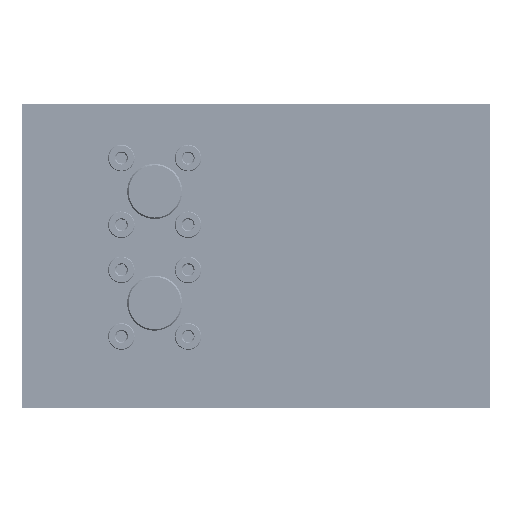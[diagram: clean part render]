
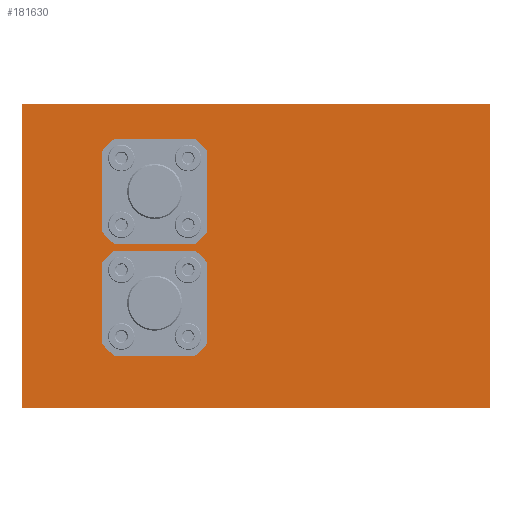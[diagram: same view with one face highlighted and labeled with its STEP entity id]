
A CAD part, left-side view. The second image highlights one B-rep face of the part: STEP entity #181630.
In plain terms, the highlighted planar face has unit normal (-1, 0, 0).
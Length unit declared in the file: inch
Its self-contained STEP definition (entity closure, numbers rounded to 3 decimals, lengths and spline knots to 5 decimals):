
#277 = VECTOR ( 'NONE', #78513, 39.37008 ) ;
#1141 = VERTEX_POINT ( 'NONE', #225869 ) ;
#8269 = FACE_BOUND ( 'NONE', #91993, .T. ) ;
#13067 = DIRECTION ( 'NONE',  ( 0., 0., 1. ) ) ;
#14617 = CARTESIAN_POINT ( 'NONE',  ( -5.51181, 2.6378, 0.8563 ) ) ;
#19227 = CIRCLE ( 'NONE', #238451, 0.18701 ) ;
#20562 = ORIENTED_EDGE ( 'NONE', *, *, #149128, .F. ) ;
#22604 = DIRECTION ( 'NONE',  ( -1., 0., 0. ) ) ;
#25913 = CARTESIAN_POINT ( 'NONE',  ( -5.51181, 2.6378, 0.8563 ) ) ;
#31103 = VECTOR ( 'NONE', #132391, 39.37008 ) ;
#32007 = CARTESIAN_POINT ( 'NONE',  ( -5.51181, 2.6378, 0.8563 ) ) ;
#32391 = CARTESIAN_POINT ( 'NONE',  ( -5.51181, 2.04724, -0.3666 ) ) ;
#32559 = VERTEX_POINT ( 'NONE', #194157 ) ;
#33224 = ORIENTED_EDGE ( 'NONE', *, *, #82172, .T. ) ;
#33620 = DIRECTION ( 'NONE',  ( 0., 0., 1. ) ) ;
#37608 = AXIS2_PLACEMENT_3D ( 'NONE', #56660, #55831, #194368 ) ;
#42775 = DIRECTION ( 'NONE',  ( 0., -1., 0. ) ) ;
#52065 = CARTESIAN_POINT ( 'NONE',  ( -5.51181, 2.04724, 0.26332 ) ) ;
#53476 = CARTESIAN_POINT ( 'NONE',  ( -5.51181, 1.88976, 0.55118 ) ) ;
#54280 = CARTESIAN_POINT ( 'NONE',  ( -5.51181, 1.88976, 0.36417 ) ) ;
#54662 = DIRECTION ( 'NONE',  ( 0., 0., -1. ) ) ;
#55139 = VECTOR ( 'NONE', #42775, 39.37008 ) ;
#55831 = DIRECTION ( 'NONE',  ( -1., 0., 0. ) ) ;
#56660 = CARTESIAN_POINT ( 'NONE',  ( -5.51181, 1.88976, 0.36417 ) ) ;
#57476 = VERTEX_POINT ( 'NONE', #96470 ) ;
#58180 = DIRECTION ( 'NONE',  ( -1., 0., 0. ) ) ;
#59134 = DIRECTION ( 'NONE',  ( 0., 0., 1. ) ) ;
#59445 = VERTEX_POINT ( 'NONE', #247343 ) ;
#65552 = EDGE_CURVE ( 'NONE', #1141, #59445, #199415, .T. ) ;
#68057 = CARTESIAN_POINT ( 'NONE',  ( -5.51181, 0., 0.8563 ) ) ;
#70393 = ORIENTED_EDGE ( 'NONE', *, *, #176235, .T. ) ;
#72454 = FACE_BOUND ( 'NONE', #117536, .T. ) ;
#73826 = VERTEX_POINT ( 'NONE', #53476 ) ;
#74752 = CIRCLE ( 'NONE', #221240, 0.18701 ) ;
#74835 = DIRECTION ( 'NONE',  ( -1., 0., 0. ) ) ;
#77020 = CARTESIAN_POINT ( 'NONE',  ( -5.51181, 1.88976, -0.26575 ) ) ;
#77610 = ORIENTED_EDGE ( 'NONE', *, *, #84788, .F. ) ;
#78513 = DIRECTION ( 'NONE',  ( 0., 0., -1. ) ) ;
#80422 = DIRECTION ( 'NONE',  ( -1., 0., 0. ) ) ;
#80688 = CARTESIAN_POINT ( 'NONE',  ( -5.51181, 2.04724, -0.3666 ) ) ;
#82172 = EDGE_CURVE ( 'NONE', #32559, #175424, #90363, .T. ) ;
#83151 = LINE ( 'NONE', #32391, #31103 ) ;
#84788 = EDGE_CURVE ( 'NONE', #238955, #197622, #83151, .T. ) ;
#86120 = AXIS2_PLACEMENT_3D ( 'NONE', #77020, #58180, #253216 ) ;
#90363 = LINE ( 'NONE', #158393, #163961 ) ;
#91993 = EDGE_LOOP ( 'NONE', ( #77610, #252376, #173084, #185242 ) ) ;
#92762 = EDGE_CURVE ( 'NONE', #207242, #175424, #247311, .T. ) ;
#95987 = CARTESIAN_POINT ( 'NONE',  ( -5.51181, 1.88976, -0.26575 ) ) ;
#96470 = CARTESIAN_POINT ( 'NONE',  ( -5.51181, 2.6378, -0.8563 ) ) ;
#98582 = ORIENTED_EDGE ( 'NONE', *, *, #141539, .F. ) ;
#101212 = CARTESIAN_POINT ( 'NONE',  ( -5.51181, 1.88976, 0.36417 ) ) ;
#101330 = EDGE_CURVE ( 'NONE', #59445, #238955, #206965, .T. ) ;
#112081 = VERTEX_POINT ( 'NONE', #203492 ) ;
#114127 = DIRECTION ( 'NONE',  ( 0., 0., 1. ) ) ;
#114823 = CARTESIAN_POINT ( 'NONE',  ( -5.51181, 2.04724, -0.16489 ) ) ;
#117536 = EDGE_LOOP ( 'NONE', ( #181187, #123010, #131624, #98582 ) ) ;
#123010 = ORIENTED_EDGE ( 'NONE', *, *, #167860, .F. ) ;
#123343 = AXIS2_PLACEMENT_3D ( 'NONE', #177921, #80422, #217249 ) ;
#131624 = ORIENTED_EDGE ( 'NONE', *, *, #248938, .F. ) ;
#132391 = DIRECTION ( 'NONE',  ( 0., 0., -1. ) ) ;
#141539 = EDGE_CURVE ( 'NONE', #239004, #112081, #195724, .T. ) ;
#149128 = EDGE_CURVE ( 'NONE', #57476, #207242, #187346, .T. ) ;
#149329 = VECTOR ( 'NONE', #168901, 39.37008 ) ;
#152280 = CARTESIAN_POINT ( 'NONE',  ( -5.51181, 2.6378, 0.8563 ) ) ;
#152982 = PLANE ( 'NONE',  #173861 ) ;
#158393 = CARTESIAN_POINT ( 'NONE',  ( -5.51181, 0., 0.8563 ) ) ;
#159247 = EDGE_LOOP ( 'NONE', ( #33224, #253029, #20562, #70393 ) ) ;
#163961 = VECTOR ( 'NONE', #59134, 39.37008 ) ;
#164236 = FACE_OUTER_BOUND ( 'NONE', #159247, .T. ) ;
#167860 = EDGE_CURVE ( 'NONE', #73826, #182585, #197774, .T. ) ;
#168901 = DIRECTION ( 'NONE',  ( 0., -1., 0. ) ) ;
#168987 = VECTOR ( 'NONE', #13067, 39.37008 ) ;
#170182 = CARTESIAN_POINT ( 'NONE',  ( -5.51181, 2.04724, 0.46503 ) ) ;
#173084 = ORIENTED_EDGE ( 'NONE', *, *, #65552, .F. ) ;
#173861 = AXIS2_PLACEMENT_3D ( 'NONE', #14617, #189803, #54662 ) ;
#175424 = VERTEX_POINT ( 'NONE', #68057 ) ;
#176235 = EDGE_CURVE ( 'NONE', #57476, #32559, #208095, .T. ) ;
#177921 = CARTESIAN_POINT ( 'NONE',  ( -5.51181, 1.88976, -0.26575 ) ) ;
#181187 = ORIENTED_EDGE ( 'NONE', *, *, #223444, .F. ) ;
#181630 = ADVANCED_FACE ( 'NONE', ( #8269, #72454, #164236 ), #152982, .F. ) ;
#182585 = VERTEX_POINT ( 'NONE', #251459 ) ;
#185242 = ORIENTED_EDGE ( 'NONE', *, *, #221160, .F. ) ;
#187346 = LINE ( 'NONE', #152280, #168987 ) ;
#189803 = DIRECTION ( 'NONE',  ( 1., 0., 0. ) ) ;
#190100 = DIRECTION ( 'NONE',  ( -1., 0., 0. ) ) ;
#194157 = CARTESIAN_POINT ( 'NONE',  ( -5.51181, 0., -0.8563 ) ) ;
#194368 = DIRECTION ( 'NONE',  ( 0., 0., 1. ) ) ;
#195724 = CIRCLE ( 'NONE', #246050, 0.18701 ) ;
#197622 = VERTEX_POINT ( 'NONE', #80688 ) ;
#197774 = CIRCLE ( 'NONE', #37608, 0.18701 ) ;
#199415 = CIRCLE ( 'NONE', #86120, 0.18701 ) ;
#200436 = DIRECTION ( 'NONE',  ( 0., 0., 1. ) ) ;
#203492 = CARTESIAN_POINT ( 'NONE',  ( -5.51181, 1.88976, 0.17717 ) ) ;
#206965 = CIRCLE ( 'NONE', #123343, 0.18701 ) ;
#207242 = VERTEX_POINT ( 'NONE', #25913 ) ;
#208095 = LINE ( 'NONE', #217272, #55139 ) ;
#217249 = DIRECTION ( 'NONE',  ( 0., 0., 1. ) ) ;
#217272 = CARTESIAN_POINT ( 'NONE',  ( -5.51181, 2.6378, -0.8563 ) ) ;
#221160 = EDGE_CURVE ( 'NONE', #197622, #1141, #74752, .T. ) ;
#221240 = AXIS2_PLACEMENT_3D ( 'NONE', #95987, #190100, #33620 ) ;
#223444 = EDGE_CURVE ( 'NONE', #182585, #239004, #245140, .T. ) ;
#225869 = CARTESIAN_POINT ( 'NONE',  ( -5.51181, 1.88976, -0.45276 ) ) ;
#238451 = AXIS2_PLACEMENT_3D ( 'NONE', #101212, #22604, #200436 ) ;
#238955 = VERTEX_POINT ( 'NONE', #114823 ) ;
#239004 = VERTEX_POINT ( 'NONE', #52065 ) ;
#245140 = LINE ( 'NONE', #170182, #277 ) ;
#246050 = AXIS2_PLACEMENT_3D ( 'NONE', #54280, #74835, #114127 ) ;
#247311 = LINE ( 'NONE', #32007, #149329 ) ;
#247343 = CARTESIAN_POINT ( 'NONE',  ( -5.51181, 1.88976, -0.07874 ) ) ;
#248938 = EDGE_CURVE ( 'NONE', #112081, #73826, #19227, .T. ) ;
#251459 = CARTESIAN_POINT ( 'NONE',  ( -5.51181, 2.04724, 0.46503 ) ) ;
#252376 = ORIENTED_EDGE ( 'NONE', *, *, #101330, .F. ) ;
#253029 = ORIENTED_EDGE ( 'NONE', *, *, #92762, .F. ) ;
#253216 = DIRECTION ( 'NONE',  ( 0., 0., 1. ) ) ;
